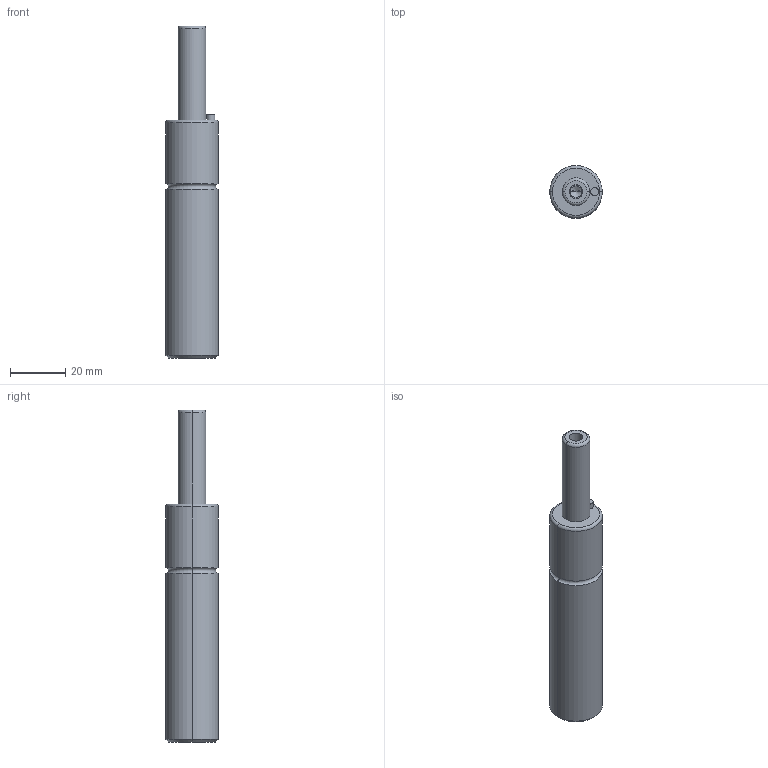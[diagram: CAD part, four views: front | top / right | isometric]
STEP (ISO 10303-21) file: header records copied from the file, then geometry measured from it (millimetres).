
FILE_DESCRIPTION(/* description */ (''),/* implementation_level */ '2;1');
FILE_NAME(/* name */ '3d_gsm19-32_03897_r00.stp',/* time_stamp */ '2011-01-10T14:15:17+09:00',/* author */ ('MISUMI'),/* organization */ (''),/* preprocessor_version */ 'ST-DEVELOPER v11',/* originating_system */ 'UGS - NX 5.0',/* authorisation */ '');
FILE_SCHEMA (('CONFIG_CONTROL_DESIGN'));
Length unit declared in the file: millimetre
Products named in the file (1): 3d_gsm19-32_03897_r00
Bounding box: 19 x 19 x 120 mm (x, y, z)
Volume: 26490.2 mm3; surface area: 7085.4 mm2
Topology: 1 solids, 1 shells, 34 faces, 70 edges, 40 vertices
Faces by surface type: cylinder 16, cone 6, plane 6, torus 6
Entity records: 964 total; most frequent: DIRECTION 180, CARTESIAN_POINT 141, ORIENTED_EDGE 132, AXIS2_PLACEMENT_3D 79, EDGE_CURVE 66, CIRCLE 44, EDGE_LOOP 40, VERTEX_POINT 40
